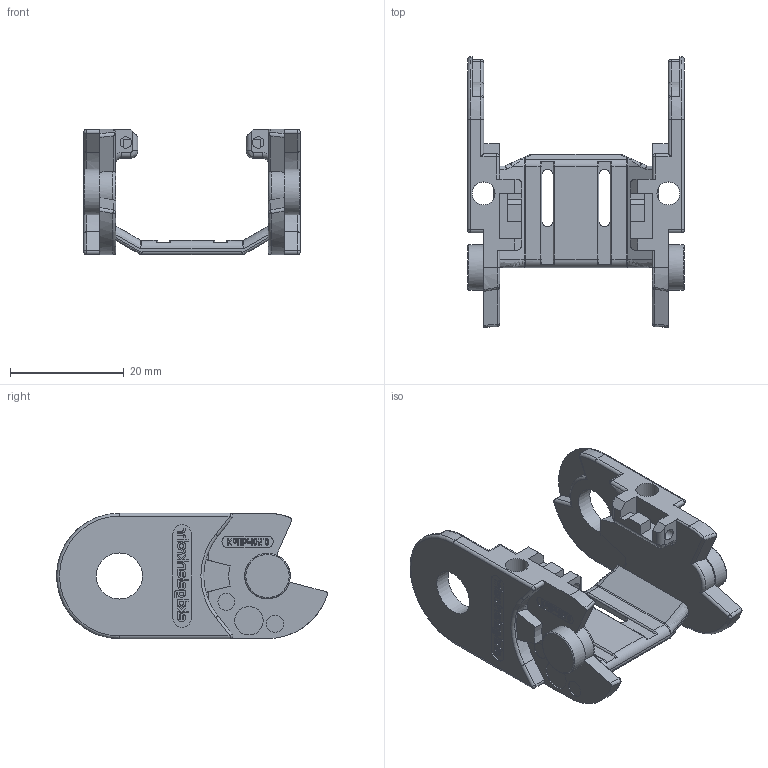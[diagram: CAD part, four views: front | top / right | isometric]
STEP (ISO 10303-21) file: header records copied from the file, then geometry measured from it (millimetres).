
FILE_DESCRIPTION((''),'2;1');
FILE_NAME('E:\Uebbing\PARAMETERKETTEN\KOLIBRI\Kol_22_038_0\Kol_22_038_0_Lasche.stp','2020-03-11T10:08:25',('Nutzer'),(''),'Autodesk Inventor 10','Autodesk Inventor 10','');
FILE_SCHEMA(('AUTOMOTIVE_DESIGN { 1 0 10303 214 1 1 1 1 }'));
Length unit declared in the file: millimetre
Products named in the file (1): Kol_22_038_0_Lasche
Bounding box: 38 x 47.5 x 22 mm (x, y, z)
Volume: 6535.2 mm3; surface area: 6792.2 mm2
Topology: 1 solids, 1 shells, 978 faces, 2577 edges, 1665 vertices
Faces by surface type: plane 469, bspline 264, cylinder 186, torus 38, sphere 17, cone 4
Full cylindrical faces by diameter (mm): 0.804 x2, 1.412 x2, 2 x4, 3 x4, 4 x2, 5 x2, 8 x2, 8.1 x2
Entity records: 32250 total; most frequent: CARTESIAN_POINT 9724, ORIENTED_EDGE 5066, DIRECTION 3875, EDGE_CURVE 2533, VERTEX_POINT 1658, VECTOR 1521, LINE 1521, AXIS2_PLACEMENT_3D 1177
